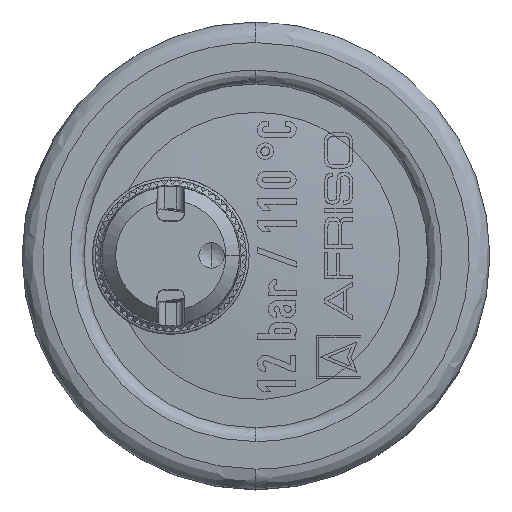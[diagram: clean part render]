
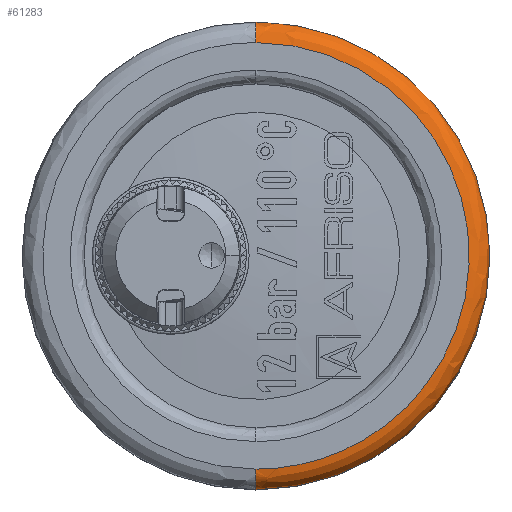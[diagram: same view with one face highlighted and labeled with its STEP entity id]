
A CAD part, top view. The second image highlights one B-rep face of the part: STEP entity #61283.
In plain terms, the highlighted free-form (B-spline) face has degree [3, 3] with [4, 4] control points.
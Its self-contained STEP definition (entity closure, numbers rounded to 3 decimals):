
#249 = CARTESIAN_POINT ( 'NONE',  ( 216.174, 193.773, 65.449 ) ) ;
#1170 = CARTESIAN_POINT ( 'NONE',  ( 216.174, 160.395, 63.949 ) ) ;
#4496 = CARTESIAN_POINT ( 'NONE',  ( 216.174, 192.895, 65.449 ) ) ;
#6004 = CARTESIAN_POINT ( 'NONE',  ( 216.174, 194.395, 64.827 ) ) ;
#6887 = ORIENTED_EDGE ( 'NONE', *, *, #20876, .F. ) ;
#8429 = CARTESIAN_POINT ( 'NONE',  ( 233.174, 177.395, 63.949 ) ) ;
#10471 = EDGE_CURVE ( 'NONE', #14605, #49803, #67542, .T. ) ;
#10634 = CARTESIAN_POINT ( 'NONE',  ( 247.174, 192.895, 65.449 ) ) ;
#12947 = DIRECTION ( 'NONE',  ( 1., 0., 0. ) ) ;
#14198 = ORIENTED_EDGE ( 'NONE', *, *, #19617, .T. ) ;
#14605 = VERTEX_POINT ( 'NONE', #1170 ) ;
#15868 = DIRECTION ( 'NONE',  ( 0., 0., -1. ) ) ;
#16606 = CARTESIAN_POINT ( 'NONE',  ( 216.174, 177.395, 63.949 ) ) ;
#17026 = CARTESIAN_POINT ( 'NONE',  ( 250.174, 160.395, 64.827 ) ) ;
#17402 = CARTESIAN_POINT ( 'NONE',  ( 216.174, 160.395, 63.949 ) ) ;
#17967 = DIRECTION ( 'NONE',  ( 0., -1., 0. ) ) ;
#19617 = EDGE_CURVE ( 'NONE', #72568, #49803, #75197, .T. ) ;
#20876 = EDGE_CURVE ( 'NONE', #37534, #14605, #70359, .T. ) ;
#21337 = EDGE_LOOP ( 'NONE', ( #59892, #6887, #66159, #46261, #14198 ) ) ;
#22915 = AXIS2_PLACEMENT_3D ( 'NONE', #60338, #38660, #25304 ) ;
#25304 = DIRECTION ( 'NONE',  ( 1., 0., 0. ) ) ;
#26589 = CARTESIAN_POINT ( 'NONE',  ( 216.174, 192.895, 65.449 ) ) ;
#27552 = AXIS2_PLACEMENT_3D ( 'NONE', #53466, #64024, #17967 ) ;
#28525 = CARTESIAN_POINT ( 'NONE',  ( 216.174, 194.395, 63.949 ) ) ;
#33834 = CARTESIAN_POINT ( 'NONE',  ( 247.174, 161.895, 65.449 ) ) ;
#37534 = VERTEX_POINT ( 'NONE', #8429 ) ;
#38660 = DIRECTION ( 'NONE',  ( 0., 0., -1. ) ) ;
#39218 = CARTESIAN_POINT ( 'NONE',  ( 248.931, 193.773, 65.449 ) ) ;
#40229 = CIRCLE ( 'NONE', #49940, 1.5 ) ;
#40340 = CARTESIAN_POINT ( 'NONE',  ( 216.174, 160.395, 64.827 ) ) ;
#43329 = CARTESIAN_POINT ( 'NONE',  ( 247.174, 192.895, 65.449 ) ) ;
#45301 = CARTESIAN_POINT ( 'NONE',  ( 216.174, 194.395, 63.949 ) ) ;
#46261 = ORIENTED_EDGE ( 'NONE', *, *, #60889, .T. ) ;
#48608 = CARTESIAN_POINT ( 'NONE',  ( 247.174, 161.895, 65.449 ) ) ;
#49803 = VERTEX_POINT ( 'NONE', #60710 ) ;
#49940 = AXIS2_PLACEMENT_3D ( 'NONE', #64682, #12947, #57973 ) ;
#51754 = CARTESIAN_POINT ( 'NONE',  ( 250.174, 160.395, 63.949 ) ) ;
#52510 = CARTESIAN_POINT ( 'NONE',  ( 250.174, 194.395, 64.827 ) ) ;
#53466 = CARTESIAN_POINT ( 'NONE',  ( 216.174, 161.895, 63.949 ) ) ;
#54908 =( BOUNDED_SURFACE ( )  B_SPLINE_SURFACE ( 3, 3, ( 
 ( #28525, #74865, #51754, #17402 ),
 ( #6004, #52510, #17026, #40340 ),
 ( #249, #39218, #62359, #56752 ),
 ( #4496, #10634, #33834, #57098 ) ),
 .UNSPECIFIED., .F., .F., .F. ) 
 B_SPLINE_SURFACE_WITH_KNOTS ( ( 4, 4 ),
 ( 4, 4 ),
 ( 0., 1. ),
 ( 0., 1. ),
 .UNSPECIFIED. ) 
 GEOMETRIC_REPRESENTATION_ITEM ( )  RATIONAL_B_SPLINE_SURFACE ( (
 ( 1., 0.333, 0.333, 1.),
 ( 0.805, 0.268, 0.268, 0.805),
 ( 0.805, 0.268, 0.268, 0.805),
 ( 1., 0.333, 0.333, 1.) ) ) 
 REPRESENTATION_ITEM ( '' )  SURFACE ( )  );
#56752 = CARTESIAN_POINT ( 'NONE',  ( 216.174, 161.016, 65.449 ) ) ;
#57098 = CARTESIAN_POINT ( 'NONE',  ( 216.174, 161.895, 65.449 ) ) ;
#57973 = DIRECTION ( 'NONE',  ( 0., 1., 0. ) ) ;
#59676 = CARTESIAN_POINT ( 'NONE',  ( 216.174, 192.895, 65.449 ) ) ;
#59892 = ORIENTED_EDGE ( 'NONE', *, *, #10471, .F. ) ;
#60338 = CARTESIAN_POINT ( 'NONE',  ( 216.174, 177.395, 63.949 ) ) ;
#60710 = CARTESIAN_POINT ( 'NONE',  ( 216.174, 161.895, 65.449 ) ) ;
#60889 = EDGE_CURVE ( 'NONE', #70549, #72568, #40229, .T. ) ;
#61283 = ADVANCED_FACE ( 'NONE', ( #69489 ), #54908, .T. ) ;
#61574 = DIRECTION ( 'NONE',  ( 1., 0., 0. ) ) ;
#62359 = CARTESIAN_POINT ( 'NONE',  ( 248.931, 161.016, 65.449 ) ) ;
#64024 = DIRECTION ( 'NONE',  ( -1., 0., 0. ) ) ;
#64682 = CARTESIAN_POINT ( 'NONE',  ( 216.174, 192.895, 63.949 ) ) ;
#66159 = ORIENTED_EDGE ( 'NONE', *, *, #67464, .F. ) ;
#66415 = CARTESIAN_POINT ( 'NONE',  ( 216.174, 161.895, 65.449 ) ) ;
#67464 = EDGE_CURVE ( 'NONE', #70549, #37534, #69003, .T. ) ;
#67542 = CIRCLE ( 'NONE', #27552, 1.5 ) ;
#69003 = CIRCLE ( 'NONE', #22915, 17. ) ;
#69088 = AXIS2_PLACEMENT_3D ( 'NONE', #16606, #15868, #61574 ) ;
#69489 = FACE_OUTER_BOUND ( 'NONE', #21337, .T. ) ;
#70359 = CIRCLE ( 'NONE', #69088, 17. ) ;
#70549 = VERTEX_POINT ( 'NONE', #45301 ) ;
#72568 = VERTEX_POINT ( 'NONE', #26589 ) ;
#74865 = CARTESIAN_POINT ( 'NONE',  ( 250.174, 194.395, 63.949 ) ) ;
#75197 =( BOUNDED_CURVE ( )  B_SPLINE_CURVE ( 3, ( #59676, #43329, #48608, #66415 ),
 .UNSPECIFIED., .F., .F. ) 
 B_SPLINE_CURVE_WITH_KNOTS ( ( 4, 4 ),
 ( 0.25, 0.75 ),
 .UNSPECIFIED. ) 
 CURVE ( )  GEOMETRIC_REPRESENTATION_ITEM ( )  RATIONAL_B_SPLINE_CURVE ( ( 1., 0.333, 0.333, 1. ) ) 
 REPRESENTATION_ITEM ( '' )  );
